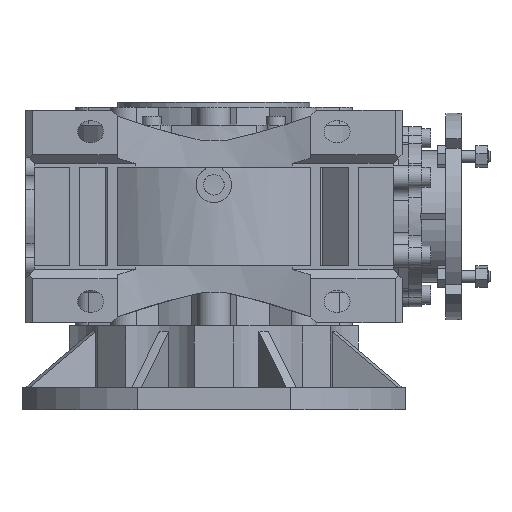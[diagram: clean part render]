
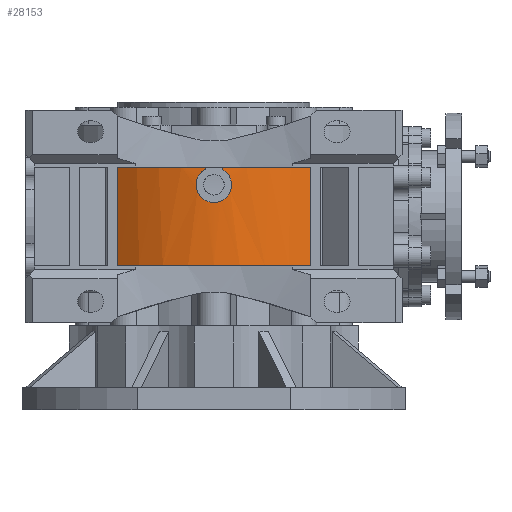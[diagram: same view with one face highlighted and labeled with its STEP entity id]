
A CAD part, front view. The second image highlights one B-rep face of the part: STEP entity #28153.
In plain terms, the highlighted cylindrical face has radius 107.7 mm (diameter 215.4 mm), a partial arc.
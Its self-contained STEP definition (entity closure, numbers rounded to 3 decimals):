
#1267=B_SPLINE_CURVE_WITH_KNOTS('',3,(#45381,#45382,#45383,#45384,#45385,
#45386,#45387,#45388,#45389,#45390,#45391,#45392,#45393,#45394,#45395,#45396,
#45397),.UNSPECIFIED.,.F.,.F.,(4,1,1,1,1,1,1,1,1,1,1,1,1,1,4),(0.,0.004,
0.008,0.012,0.016,0.02,
0.023,0.027,0.031,0.035,
0.039,0.047,0.051,0.055,
0.063),.UNSPECIFIED.);
#1707=CIRCLE('',#30062,107.7);
#1711=CIRCLE('',#30068,107.7);
#1713=CIRCLE('',#30070,107.7);
#5270=ORIENTED_EDGE('',*,*,#12367,.F.);
#5271=ORIENTED_EDGE('',*,*,#12900,.T.);
#5272=ORIENTED_EDGE('',*,*,#12901,.T.);
#5273=ORIENTED_EDGE('',*,*,#12902,.T.);
#5274=ORIENTED_EDGE('',*,*,#12373,.F.);
#5275=ORIENTED_EDGE('',*,*,#12378,.T.);
#5276=ORIENTED_EDGE('',*,*,#12358,.F.);
#5277=ORIENTED_EDGE('',*,*,#12376,.T.);
#12358=EDGE_CURVE('',#16396,#16397,#1707,.F.);
#12367=EDGE_CURVE('',#16403,#16405,#1711,.F.);
#12373=EDGE_CURVE('',#16410,#16411,#1713,.F.);
#12376=EDGE_CURVE('',#16396,#16405,#18875,.T.);
#12378=EDGE_CURVE('',#16410,#16397,#18877,.F.);
#12900=EDGE_CURVE('',#16403,#16760,#19244,.F.);
#12901=EDGE_CURVE('',#16760,#16761,#1267,.T.);
#12902=EDGE_CURVE('',#16761,#16411,#19245,.T.);
#16396=VERTEX_POINT('',#44300);
#16397=VERTEX_POINT('',#44302);
#16403=VERTEX_POINT('',#44318);
#16405=VERTEX_POINT('',#44321);
#16410=VERTEX_POINT('',#44331);
#16411=VERTEX_POINT('',#44333);
#16760=VERTEX_POINT('',#45380);
#16761=VERTEX_POINT('',#45398);
#18875=LINE('',#44338,#21252);
#18877=LINE('',#44341,#21254);
#19244=LINE('',#45379,#21621);
#19245=LINE('',#45399,#21622);
#21252=VECTOR('',#34371,1000.);
#21254=VECTOR('',#34375,1000.);
#21621=VECTOR('',#35354,1000.);
#21622=VECTOR('',#35355,1000.);
#23547=EDGE_LOOP('',(#5270,#5271,#5272,#5273,#5274,#5275,#5276,#5277));
#25536=FACE_BOUND('',#23547,.T.);
#27185=CYLINDRICAL_SURFACE('',#30378,107.7);
#28153=ADVANCED_FACE('',(#25536),#27185,.T.);
#30062=AXIS2_PLACEMENT_3D('',#44301,#34340,#34341);
#30068=AXIS2_PLACEMENT_3D('',#44320,#34357,#34358);
#30070=AXIS2_PLACEMENT_3D('',#44332,#34365,#34366);
#30378=AXIS2_PLACEMENT_3D('',#45378,#35352,#35353);
#34340=DIRECTION('',(0.,0.,-1.));
#34341=DIRECTION('',(-1.,0.,0.));
#34357=DIRECTION('',(0.,0.,1.));
#34358=DIRECTION('',(1.,0.,0.));
#34365=DIRECTION('',(0.,0.,1.));
#34366=DIRECTION('',(1.,0.,0.));
#34371=DIRECTION('',(0.,0.,-1.));
#34375=DIRECTION('',(0.,0.,-1.));
#35352=DIRECTION('',(0.,0.,-1.));
#35353=DIRECTION('',(-1.,0.,0.));
#35354=DIRECTION('',(0.,0.,-1.));
#35355=DIRECTION('',(0.,0.,-1.));
#44300=CARTESIAN_POINT('',(-65.5,-85.493,33.5));
#44301=CARTESIAN_POINT('',(0.,0.,33.5));
#44302=CARTESIAN_POINT('',(65.5,-85.493,33.5));
#44318=CARTESIAN_POINT('',(-6.,-107.533,-33.5));
#44320=CARTESIAN_POINT('',(0.,0.,-33.5));
#44321=CARTESIAN_POINT('',(-65.5,-85.493,-33.5));
#44331=CARTESIAN_POINT('',(65.5,-85.493,-33.5));
#44332=CARTESIAN_POINT('',(0.,0.,-33.5));
#44333=CARTESIAN_POINT('',(6.,-107.533,-33.5));
#44338=CARTESIAN_POINT('',(-65.5,-85.493,40.));
#44341=CARTESIAN_POINT('',(65.5,-85.493,40.));
#45378=CARTESIAN_POINT('',(0.,0.,40.));
#45379=CARTESIAN_POINT('',(-6.,-107.533,40.));
#45380=CARTESIAN_POINT('',(-6.,-107.533,-31.892));
#45381=CARTESIAN_POINT('',(-6.,-107.533,-31.892));
#45382=CARTESIAN_POINT('',(-7.144,-107.469,-31.232));
#45383=CARTESIAN_POINT('',(-9.176,-107.319,-29.561));
#45384=CARTESIAN_POINT('',(-11.284,-107.111,-26.182));
#45385=CARTESIAN_POINT('',(-12.189,-107.008,-22.308));
#45386=CARTESIAN_POINT('',(-11.802,-107.053,-18.344));
#45387=CARTESIAN_POINT('',(-10.161,-107.227,-14.719));
#45388=CARTESIAN_POINT('',(-7.445,-107.458,-11.816));
#45389=CARTESIAN_POINT('',(-3.94,-107.65,-9.937));
#45390=CARTESIAN_POINT('',(-0.012,-107.725,-9.283));
#45391=CARTESIAN_POINT('',(3.917,-107.651,-9.93));
#45392=CARTESIAN_POINT('',(8.603,-107.394,-12.423));
#45393=CARTESIAN_POINT('',(11.669,-107.068,-16.998));
#45394=CARTESIAN_POINT('',(12.19,-107.008,-22.286));
#45395=CARTESIAN_POINT('',(10.992,-107.144,-27.461));
#45396=CARTESIAN_POINT('',(8.288,-107.405,-30.572));
#45397=CARTESIAN_POINT('',(6.,-107.533,-31.892));
#45398=CARTESIAN_POINT('',(6.,-107.533,-31.892));
#45399=CARTESIAN_POINT('',(6.,-107.533,40.));
